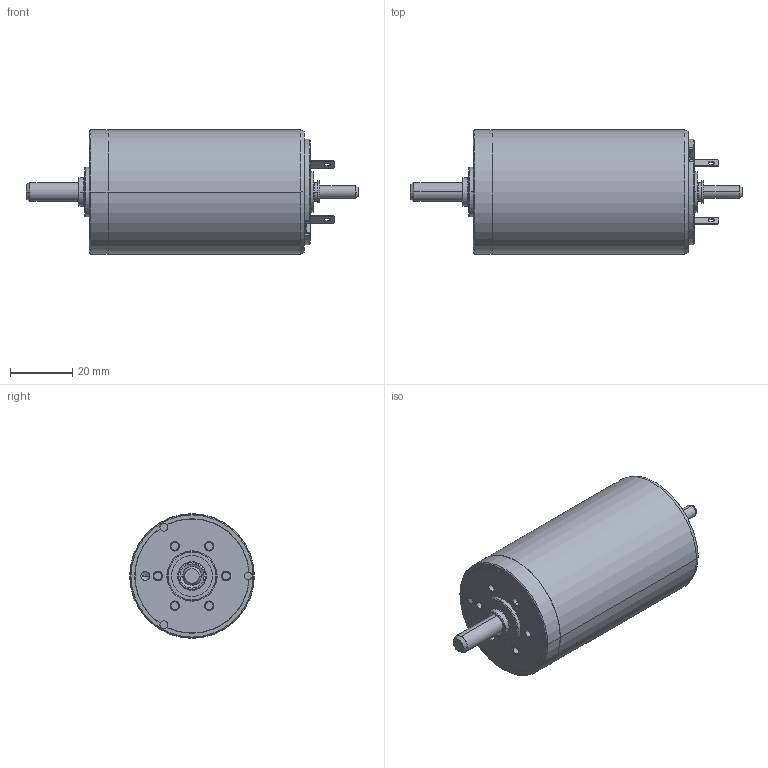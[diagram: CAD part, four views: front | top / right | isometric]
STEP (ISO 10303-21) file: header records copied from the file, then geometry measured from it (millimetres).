
FILE_DESCRIPTION((''),'2;1');
FILE_NAME('448588_RE40_EB_25W_KL_2WE','2016-10-10T',('mmagvisi'),(''),'CREO PARAMETRIC BY PTC INC, 2016050','CREO PARAMETRIC BY PTC INC, 2016050','');
FILE_SCHEMA(('CONFIG_CONTROL_DESIGN'));
Length unit declared in the file: millimetre
Products named in the file (1): 448588_RE40_EB_25W_KL_2WE
Bounding box: 106.6 x 40 x 40 mm (x, y, z)
Volume: 89207.9 mm3; surface area: 13451 mm2
Topology: 3 solids, 3 shells, 355 faces, 877 edges, 565 vertices
Faces by surface type: cylinder 137, plane 133, cone 47, torus 22, bspline 16
Entity records: 14729 total; most frequent: CARTESIAN_POINT 2265, DIRECTION 1911, ORIENTED_EDGE 1750, PRESENTATION_STYLE_ASSIGNMENT 991, STYLED_ITEM 878, CURVE_STYLE 875, EDGE_CURVE 875, AXIS2_PLACEMENT_3D 743
